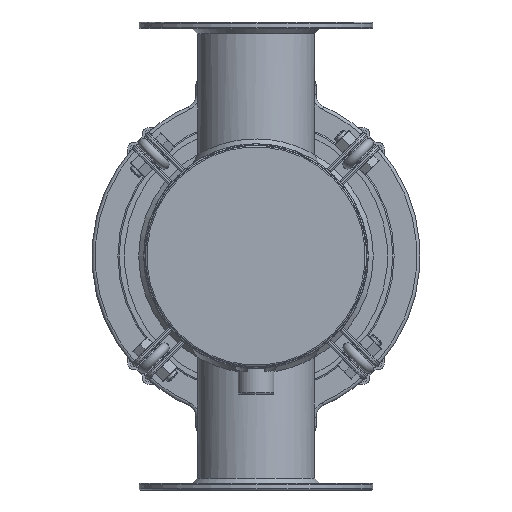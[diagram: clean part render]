
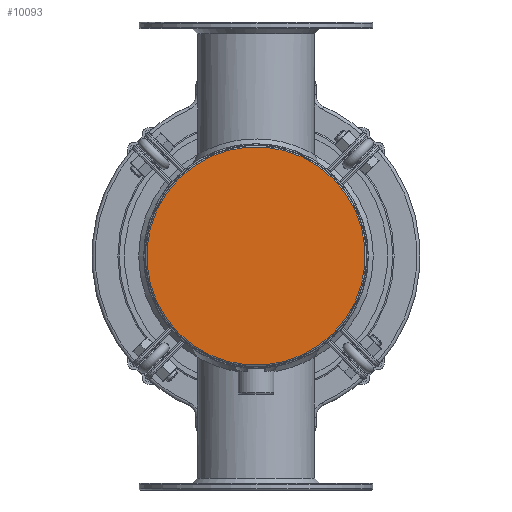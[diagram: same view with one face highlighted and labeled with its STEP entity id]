
A CAD part, front view. The second image highlights one B-rep face of the part: STEP entity #10093.
In plain terms, the highlighted planar face has unit normal (0, -1, 0).
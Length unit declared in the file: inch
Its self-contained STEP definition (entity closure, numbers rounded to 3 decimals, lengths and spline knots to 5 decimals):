
#1024=CIRCLE('',#10860,4.2);
#2146=FACE_OUTER_BOUND('',#2852,.T.);
#2852=EDGE_LOOP('',(#7429));
#4831=VERTEX_POINT('',#18332);
#5788=EDGE_CURVE('',#4831,#4831,#1024,.T.);
#7429=ORIENTED_EDGE('',*,*,#5788,.F.);
#9839=PLANE('',#10863);
#10093=ADVANCED_FACE('',(#2146),#9839,.F.);
#10860=AXIS2_PLACEMENT_3D('',#18333,#12635,#12636);
#10863=AXIS2_PLACEMENT_3D('',#18337,#12641,#12642);
#12635=DIRECTION('center_axis',(0.,1.,0.));
#12636=DIRECTION('ref_axis',(1.,0.,0.));
#12641=DIRECTION('center_axis',(0.,1.,0.));
#12642=DIRECTION('ref_axis',(0.,0.,1.));
#18332=CARTESIAN_POINT('',(-4.2,0.,0.));
#18333=CARTESIAN_POINT('Origin',(0.,0.,0.));
#18337=CARTESIAN_POINT('Origin',(0.,0.,0.));
